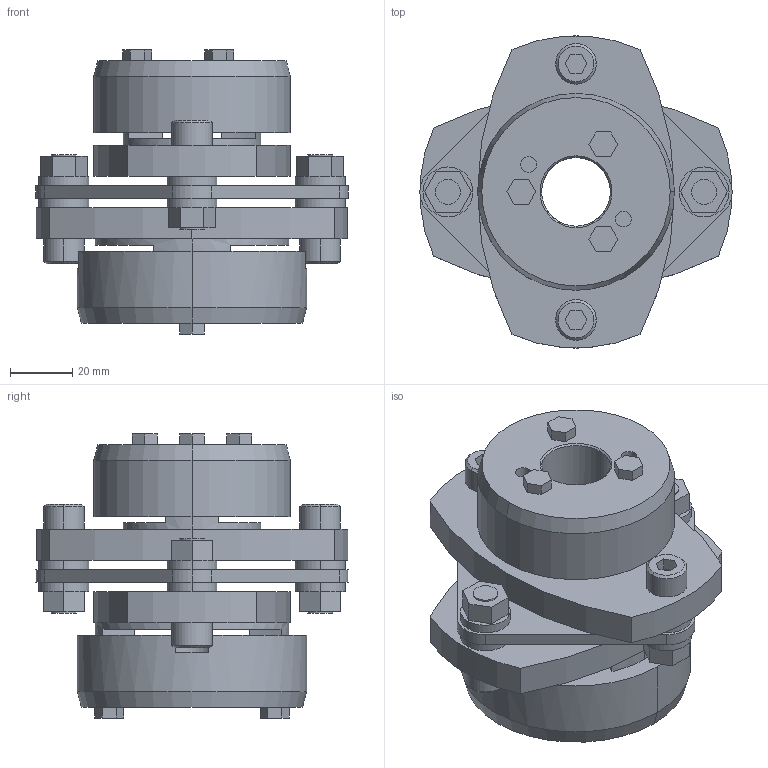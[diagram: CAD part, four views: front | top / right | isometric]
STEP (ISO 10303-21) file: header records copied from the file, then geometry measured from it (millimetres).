
FILE_DESCRIPTION((''),'2;1');
FILE_NAME('LCS-100T7-22×40.stp','2011-09-08T17:01:37',(''),(''),'AutoCAD STEP 2000i','AutoCAD 2000i',', , ');
FILE_SCHEMA(('CONFIG_CONTROL_DESIGN'));
Length unit declared in the file: millimetre
Products named in the file (9): LCS-100T7-22×38; 忣兜1; LC100T7-T038; LC100T7-T035; LC100T7-T030; LC100T7-T025; LC100T7-T022-1; LC100T7-T022; LCS100-ITA
Assembly tree (8 placements, depth 2):
  LCS-100T7-22×38
    忣兜1
    LC100T7-T038
    LC100T7-T035
    LC100T7-T030
    LC100T7-T025
    LC100T7-T022-1
    LC100T7-T022
    LCS100-ITA
Bounding box: 100 x 99.93 x 91 mm (x, y, z)
Volume: 258159.2 mm3; surface area: 64255.7 mm2
Topology: 1 solids, 1 shells, 229 faces, 562 edges, 368 vertices
Faces by surface type: plane 127, cylinder 82, cone 20
Entity records: 7023 total; most frequent: DIRECTION 1242, CARTESIAN_POINT 1168, ORIENTED_EDGE 1124, EDGE_CURVE 562, AXIS2_PLACEMENT_3D 442, VERTEX_POINT 368, VECTOR 358, LINE 358
